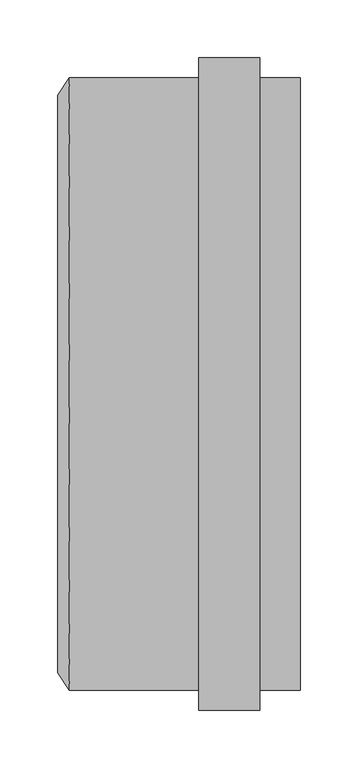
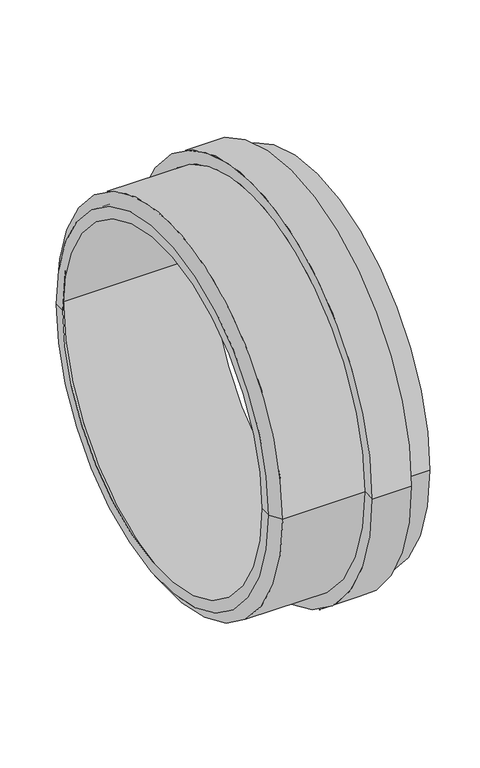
"""IFC4 building model written with IfcOpenShell, lengths in millimetres: pipe fitting geometry, OSMA_KG2000_Hrdlo : Hrdlo."""

from ifc_helpers import new_model, si_unit, frame, origin, place, context, project, spatial, polyline, circle_curve, source, transform, mapped, element, save
from ifc_brep_helpers import plane_surface, cylinder_surface, revolved_surface, advanced_brep


def pipe_fitting_3f777d51(model_context):
    return source(origin(), model_context, "Body", "AdvancedBrep", [
        advanced_brep(
        [(117.0, -282.5, 0.0), (117.0, 282.5, 0.0), (170.0, 282.5, 0.0), (170.0, -282.5, 0.0), (117.0, -265.3, 0.0), (117.0, 265.3, 0.0), (5.0, -265.3, 0.0), (5.0, 265.3, 0.0), (-5.0, -250.0, 0.0), (-5.0, 250.0, 0.0), (-5.0, -234.7, 0.0), (-5.0, 234.7, 0.0), (5.0, -250.0, 0.0), (5.0, 250.0, 0.0), (205.0, -250.0, 0.0), (205.0, 250.0, 0.0), (205.0, -265.3, 0.0), (205.0, 265.3, 0.0), (170.0, -265.3, 0.0), (170.0, 265.3, 0.0)],
        [
            (0, 1, circle_curve(frame((117.0, 0.0, 0.0), z_axis=(1.0, 0.0, 0.0), x_axis=(0.0, 1.0, 0.0)), 282.5)),
            (1, 2),
            (2, 3, circle_curve(frame((170.0, 0.0, 0.0), z_axis=(-1.0, 0.0, 0.0), x_axis=(0.0, 1.0, 0.0)), 282.5)),
            (3, 0),
            (1, 0, circle_curve(frame((117.0, 0.0, 0.0), z_axis=(1.0, 0.0, 0.0), x_axis=(0.0, 1.0, 0.0)), 282.5)),
            (3, 2, circle_curve(frame((170.0, 0.0, 0.0), z_axis=(-1.0, 0.0, 0.0), x_axis=(0.0, 1.0, 0.0)), 282.5)),
            (4, 5, circle_curve(frame((117.0, 0.0, 0.0), z_axis=(1.0, 0.0, 0.0), x_axis=(0.0, 1.0, 0.0)), 265.3)),
            (5, 1),
            (0, 4),
            (5, 4, circle_curve(frame((117.0, 0.0, 0.0), z_axis=(1.0, 0.0, 0.0), x_axis=(0.0, 1.0, 0.0)), 265.3)),
            (6, 7, circle_curve(frame((5.0, 0.0, 0.0), z_axis=(1.0, 0.0, 0.0), x_axis=(0.0, 1.0, 0.0)), 265.3)),
            (7, 5),
            (4, 6),
            (7, 6, circle_curve(frame((5.0, 0.0, 0.0), z_axis=(1.0, 0.0, 0.0), x_axis=(0.0, 1.0, 0.0)), 265.3)),
            (8, 9, circle_curve(frame((-5.0, 0.0, 0.0), z_axis=(1.0, 0.0, 0.0), x_axis=(0.0, 1.0, 0.0)), 250.0)),
            (9, 7),
            (6, 8),
            (9, 8, circle_curve(frame((-5.0, 0.0, 0.0), z_axis=(1.0, 0.0, 0.0), x_axis=(0.0, 1.0, 0.0)), 250.0)),
            (10, 11, circle_curve(frame((-5.0, 0.0, 0.0), z_axis=(1.0, 0.0, 0.0), x_axis=(0.0, 1.0, 0.0)), 234.7)),
            (11, 9),
            (8, 10),
            (11, 10, circle_curve(frame((-5.0, 0.0, 0.0), z_axis=(1.0, 0.0, 0.0), x_axis=(0.0, 1.0, 0.0)), 234.7)),
            (12, 13, circle_curve(frame((5.0, 0.0, 0.0), z_axis=(1.0, 0.0, 0.0), x_axis=(0.0, 1.0, 0.0)), 250.0)),
            (13, 11),
            (10, 12),
            (13, 12, circle_curve(frame((5.0, 0.0, 0.0), z_axis=(1.0, 0.0, 0.0), x_axis=(0.0, 1.0, 0.0)), 250.0)),
            (14, 15, circle_curve(frame((205.0, 0.0, 0.0), z_axis=(1.0, 0.0, 0.0), x_axis=(0.0, 1.0, 0.0)), 250.0)),
            (15, 13),
            (12, 14),
            (15, 14, circle_curve(frame((205.0, 0.0, 0.0), z_axis=(1.0, 0.0, 0.0), x_axis=(0.0, 1.0, 0.0)), 250.0)),
            (16, 17, circle_curve(frame((205.0, 0.0, 0.0), z_axis=(1.0, 0.0, 0.0), x_axis=(0.0, 1.0, 0.0)), 265.3)),
            (17, 15),
            (14, 16),
            (17, 16, circle_curve(frame((205.0, 0.0, 0.0), z_axis=(1.0, 0.0, 0.0), x_axis=(0.0, 1.0, 0.0)), 265.3)),
            (18, 19, circle_curve(frame((170.0, 0.0, 0.0), z_axis=(1.0, 0.0, 0.0), x_axis=(0.0, 1.0, 0.0)), 265.3)),
            (19, 17),
            (16, 18),
            (19, 18, circle_curve(frame((170.0, 0.0, 0.0), z_axis=(1.0, 0.0, 0.0), x_axis=(0.0, 1.0, 0.0)), 265.3)),
            (2, 19),
            (18, 3),
        ],
        [
            cylinder_surface(frame((485.497004, 0.0, 0.0), z_axis=(-1.0, 0.0, 0.0), x_axis=(0.0, 1.0, 0.0)), 282.5),
            plane_surface(frame((117.0, 0.0, 0.0), z_axis=(-1.0, 0.0, 0.0), x_axis=(0.0, 1.0, 0.0))),
            cylinder_surface(frame((485.497004, 0.0, 0.0), z_axis=(-1.0, 0.0, 0.0), x_axis=(0.0, 1.0, 0.0)), 265.3),
            revolved_surface(polyline([(5.0, 265.3, 0.0), (-5.0, 250.0, 0.0)]), (485.497004, 0.0, 0.0), (-1.0, 0.0, 0.0)),
            plane_surface(frame((-5.0, 0.0, 0.0), z_axis=(-1.0, 0.0, 0.0), x_axis=(0.0, 1.0, 0.0))),
            revolved_surface(polyline([(-5.0, 234.7, 0.0), (5.0, 250.0, 0.0)]), (485.497004, 0.0, 0.0), (-1.0, 0.0, 0.0)),
            revolved_surface(polyline([(5.0, 250.0, 0.0), (205.0, 250.0, 0.0)]), (485.497004, 0.0, 0.0), (-1.0, 0.0, 0.0)),
            plane_surface(frame((205.0, 0.0, 0.0), z_axis=(1.0, 0.0, 0.0), x_axis=(0.0, 1.0, 0.0))),
            plane_surface(frame((170.0, 0.0, 0.0), z_axis=(1.0, 0.0, 0.0), x_axis=(0.0, 1.0, 0.0))),
        ],
        [
            (0, [[1, 2, 3, 4]]),
            (0, [[5, -4, 6, -2]]),
            (1, [[7, 8, -1, 9]]),
            (1, [[10, -9, -5, -8]]),
            (2, [[11, 12, -7, 13]]),
            (2, [[14, -13, -10, -12]]),
            (3, [[15, 16, -11, 17]]),
            (3, [[18, -17, -14, -16]]),
            (4, [[19, 20, -15, 21]]),
            (4, [[22, -21, -18, -20]]),
            (5, [[23, 24, -19, 25]]),
            (5, [[26, -25, -22, -24]]),
            (6, [[27, 28, -23, 29]]),
            (6, [[30, -29, -26, -28]]),
            (7, [[31, 32, -27, 33]]),
            (7, [[34, -33, -30, -32]]),
            (2, [[35, 36, -31, 37]]),
            (2, [[38, -37, -34, -36]]),
            (8, [[-3, 39, -35, 40]]),
            (8, [[-6, -40, -38, -39]]),
        ],
    ),
    ])


if __name__ == "__main__":
    model = new_model("IFC4")
    model_context = context("Model", 3, world=origin())
    ifc_project = project(units=[si_unit("LENGTHUNIT", "METRE", prefix="MILLI")], contexts=[model_context])
    site = spatial("IfcSite", under=ifc_project)
    building = spatial("IfcBuilding", under=site)
    placement = place(None, origin())
    pipe_fitting_shape = pipe_fitting_3f777d51(model_context)
    element("IfcPipeFitting", 1, ObjectType="OSMA_KG2000_Hrdlo : Hrdlo", at=placement, inside=building, context=model_context, shape_type="MappedRepresentation", body=[
        mapped(pipe_fitting_shape, transform((0.0, 0.0, 0.0), x_axis=(1.0, 0.0, 0.0), y_axis=(0.0, 1.0, 0.0), z_axis=(0.0, 0.0, 1.0))),
    ])
    save(model, "model.ifc")
